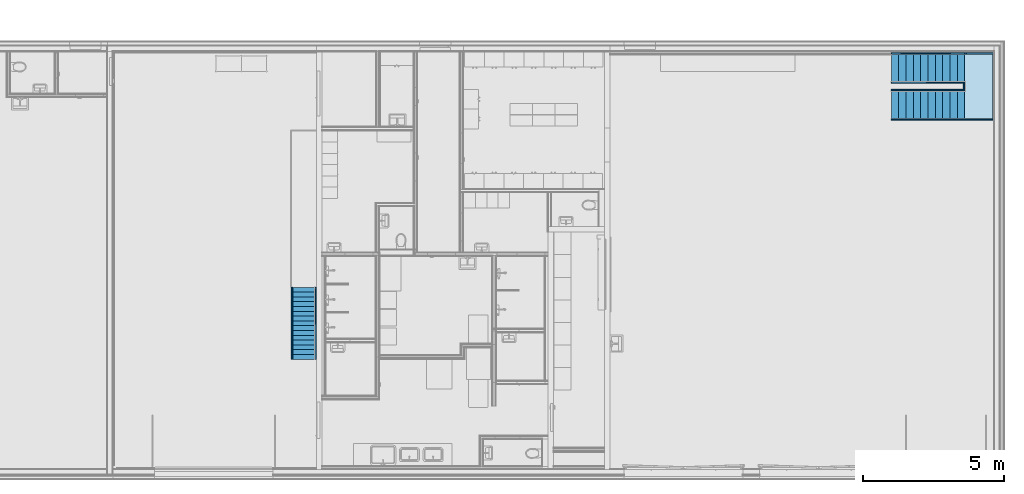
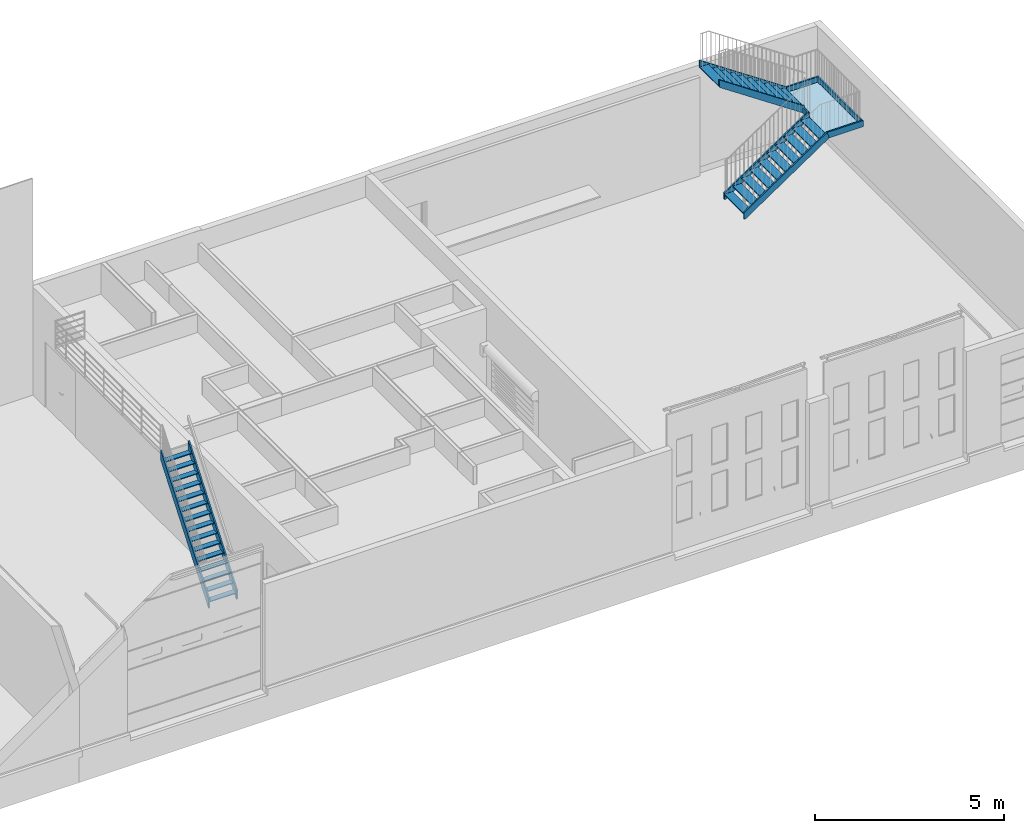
# One storey, part 1 of 67: 10 members, 3 stair flights, 1 slab, 2 elements without a shape of their own.
"""IFC4 building model written with IfcOpenShell, lengths in millimetres."""

from ifc_helpers import new_model, entity, si_unit, converted_unit, direction, frame, origin, place, context, subcontext, project, spatial, indexed_curve, outline, extrude, polygons, material, type_object, element, aggregate, save


model = new_model("IFC4")

# Units and contexts
model_context = context("Model", 3, precision=0.01, world=origin(), true_north=direction((0.0, 1.0)))
body_context = subcontext(model_context, "Body", "Model", "MODEL_VIEW")
ifc_project = project(units=[si_unit("LENGTHUNIT", "METRE", prefix="MILLI"), si_unit("AREAUNIT", "SQUARE_METRE"), si_unit("VOLUMEUNIT", "CUBIC_METRE"), converted_unit("PLANEANGLEUNIT", "DEGREE", entity("IfcPlaneAngleMeasure", 0.017453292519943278), si_unit("PLANEANGLEUNIT", "RADIAN"), dimensions=[0, 0, 0, 0, 0, 0, 0])], contexts=[model_context])

# Site, building, storey
site_placement = place(None, origin())
site = spatial("IfcSite", under=ifc_project, at=site_placement, Name="Tomtens navn", CompositionType="ELEMENT")
building_placement = place(site_placement, origin())
building = spatial("IfcBuilding", under=site, at=building_placement, Name="Byggets navn", CompositionType="ELEMENT")
storey_placement = place(building_placement, origin())
storey = spatial("IfcBuildingStorey", under=building, at=storey_placement, Name="Level 01", CompositionType="ELEMENT", Elevation=2.1993652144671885e-25)

# Stair, members
stair_type_1 = type_object("IfcStairType", Name="Assembled Stair:Ståltrapp A", PredefinedType="STRAIGHT_RUN_STAIR")
stair_1_placement = place(storey_placement, origin())
stair_1 = element("IfcStair", 1, at=stair_1_placement, inside=storey, type_object=stair_type_1, Name="Assembled Stair:Stair", PredefinedType="STRAIGHT_RUN_STAIR")
ifc_material = material(Name="Stål", Category="Metal")
member_type = type_object("IfcMemberType", Name="Stringer:Stringer - Metal - 45 mm Width", PredefinedType="STRINGER")
member_1_placement = place(stair_1_placement, origin())
member_1 = element("IfcMember", 2, at=member_1_placement, type_object=member_type, material=ifc_material, Name="Assembled Stair:Stair:1964990 Stringer 1", PredefinedType="STRINGER", context=body_context, shape_type="SweptSolid", body=[
    extrude(outline(indexed_curve([(-1024.662857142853, -1424.872105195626), (-1001.3485714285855, -1424.872105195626), (1525.337142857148, 1826.37789480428), (1525.337142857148, 2152.308157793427), (-1024.662857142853, -1128.9418422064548), (-1024.662857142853, -1424.872105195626)], self_intersect=False)), frame((58377.11707632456, 12986.129314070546, 1424.872105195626), z_axis=(1.0, 0.0, 0.0), x_axis=(0.0, 1.0, 0.0)), (0.0, 0.0, 1.0), 44.99999999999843),
])
member_2_placement = place(stair_1_placement, origin())
member_2 = element("IfcMember", 3, at=member_2_placement, type_object=member_type, material=ifc_material, Name="Assembled Stair:Stair:1964990 Stringer 2", PredefinedType="STRINGER", context=body_context, shape_type="SweptSolid", body=[
    extrude(outline(indexed_curve([(-1024.6628571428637, -1424.87210519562), (-1001.3485714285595, -1424.8721051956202), (1525.337142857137, 1826.37789480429), (1525.337142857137, 2152.308157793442), (-1024.6628571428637, -1128.941842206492), (-1024.6628571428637, -1424.87210519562)], self_intersect=False)), frame((57532.11707632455, 12986.12931407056, 1424.87210519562), z_axis=(1.0, 0.0, 0.0), x_axis=(0.0, 1.0, 0.0)), (0.0, 0.0, 1.0), 44.99999999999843),
])

# Stair, members, slab
stair_type_2 = type_object("IfcStairType", Name="Assembled Stair:Ståltrapp A", PredefinedType="HALF_TURN_STAIR")
stair_2_placement = place(storey_placement, origin())
stair_2 = element("IfcStair", 4, at=stair_2_placement, inside=storey, type_object=stair_type_2, Name="Assembled Stair:Stair", PredefinedType="HALF_TURN_STAIR")
member_3_placement = place(stair_2_placement, origin())
member_3 = element("IfcMember", 5, at=member_3_placement, type_object=member_type, material=ifc_material, Name="Assembled Stair:Stair:2088389 Stringer 1", PredefinedType="STRINGER", context=body_context, shape_type="SweptSolid", body=[
    extrude(outline(indexed_curve([(-1480.1334070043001, -97.34464691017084), (1580.3764873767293, -97.34464691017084), (1593.6818222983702, -88.38913302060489), (1465.09418741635, 102.65535308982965), (-1561.0215895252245, 102.65535308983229), (-1597.997500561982, 77.76772066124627), (-1480.1334070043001, -97.34464691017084)], self_intersect=False)), frame((80065.03459323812, 21473.9919636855, 956.7991896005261), z_axis=(0.0, 1.0, 0.0), x_axis=(0.8295877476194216, 0.0, 0.5583763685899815)), (0.0, 0.0, 1.0), 44.999999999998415),
])
member_4_placement = place(stair_2_placement, origin())
member_4 = element("IfcMember", 6, at=member_4_placement, type_object=member_type, material=ifc_material, Name="Assembled Stair:Stair:2088389 Stringer 2", PredefinedType="STRINGER", context=body_context, shape_type="SweptSolid", body=[
    extrude(outline(indexed_curve([(-1172.2458045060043, -115.02247351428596), (1888.2640898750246, -115.02247351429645), (1827.225599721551, 84.97752648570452), (-1253.1339870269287, 84.9775264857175), (-1290.109898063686, 60.08989405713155), (-1172.2458045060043, -115.02247351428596)], self_intersect=False)), frame((79819.48569118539, 20428.99196368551, 770.2167198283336), z_axis=(0.0, 1.0, 0.0), x_axis=(0.8295877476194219, 0.0, 0.5583763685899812)), (0.0, 0.0, 1.0), 44.99999999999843),
])
member_5_placement = place(stair_2_placement, origin())
member_5 = element("IfcMember", 7, at=member_5_placement, type_object=member_type, material=ifc_material, Name="Assembled Stair:Stair:2088389 Stringer 3", PredefinedType="STRINGER", context=body_context, shape_type="SweptSolid", body=[
    extrude(outline(indexed_curve([(-1634.3510867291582, -99.99999999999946), (1499.7357021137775, -99.99999999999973), (1634.351086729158, 99.99999999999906), (-1499.735702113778, 99.99999999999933), (-1634.3510867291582, -99.99999999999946)], self_intersect=False)), frame((80082.77910350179, 21728.991963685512, 2715.5417995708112), z_axis=(0.0, 1.0, 0.0), x_axis=(-0.8295877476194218, 0.0, 0.5583763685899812)), (0.0, 0.0, 1.0), 44.999999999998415),
])
member_6_placement = place(stair_2_placement, origin())
member_6 = element("IfcMember", 8, at=member_6_placement, type_object=member_type, material=ifc_material, Name="Assembled Stair:Stair:2088389 Stringer 4", PredefinedType="STRINGER", context=body_context, shape_type="SweptSolid", body=[
    extrude(outline(indexed_curve([(-1615.9568631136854, -99.99999999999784), (1518.1299257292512, -99.99999999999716), (1652.7453103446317, 100.00000000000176), (-1554.9183729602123, 100.00000000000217), (-1615.9568631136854, -99.99999999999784)], self_intersect=False)), frame((80098.03872604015, 22773.99196368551, 2705.2708997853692), z_axis=(0.0, 1.0, 0.0), x_axis=(-0.8295877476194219, 0.0, 0.5583763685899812)), (0.0, 0.0, 1.0), 44.9999999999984),
])
member_7_placement = place(stair_2_placement, origin())
member_7 = element("IfcMember", 9, at=member_7_placement, type_object=member_type, material=ifc_material, Name="Assembled Stair:Stair:2088389 Stringer 5", PredefinedType="STRINGER", context=body_context, shape_type="SweptSolid", body=[
    extrude(outline(indexed_curve([(-127.50000000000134, -22.50000000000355), (127.50000000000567, -22.50000000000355), (127.50000000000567, 22.50000000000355), (-127.50000000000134, 22.50000000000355), (-127.50000000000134, -22.50000000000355)], self_intersect=False)), frame((81360.27910350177, 21601.491963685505, 1720.0), z_axis=(0.0, 0.0, 1.0), x_axis=(0.0, -1.0, 0.0)), (0.0, 0.0, 1.0), 200.0),
])
member_8_placement = place(stair_2_placement, frame((81321.74061334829, 20428.991963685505, 1720.0)))
member_8 = element("IfcMember", 10, at=member_8_placement, type_object=member_type, material=ifc_material, Name="Assembled Stair:Stair:2088389 Stringer 6", PredefinedType="STRINGER", context=body_context, shape_type="Tessellation", body=[
    polygons([(0.0, 44.99999999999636, 200.00000000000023), (0.0, 0.0, 200.00000000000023), (1106.0384901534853, 0.0, 200.00000000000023), (1061.0384901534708, 44.99999999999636, 200.00000000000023), (61.03849015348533, 44.99999999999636, 2.2737367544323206e-13), (1061.0384901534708, 44.99999999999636, 2.2737367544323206e-13), (61.03849015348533, 0.0, 2.2737367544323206e-13), (1106.0384901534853, 0.0, 2.2737367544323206e-13)], [[[1, 2, 3, 4]], [[5, 1, 4, 6]], [[7, 5, 6, 8]], [[2, 7, 8, 3]], [[2, 1, 5, 7]], [[3, 8, 6, 4]]], closed=True),
])
member_9_placement = place(stair_2_placement, origin())
member_9 = element("IfcMember", 11, at=member_9_placement, type_object=member_type, material=ifc_material, Name="Assembled Stair:Stair:2088389 Stringer 7", PredefinedType="STRINGER", context=body_context, shape_type="SweptSolid", body=[
    extrude(outline(indexed_curve([(-1194.9999999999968, -22.50000000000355), (1195.0000000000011, -22.50000000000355), (1150.0000000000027, 22.50000000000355), (-1149.9999999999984, 22.50000000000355), (-1194.9999999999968, -22.50000000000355)], self_intersect=False)), frame((82405.27910350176, 21623.9919636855, 1720.0), z_axis=(0.0, 0.0, 1.0), x_axis=(0.0, 1.0, 0.0)), (0.0, 0.0, 1.0), 200.0),
])
member_10_placement = place(stair_2_placement, frame((81382.77910350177, 22773.991963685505, 1720.0)))
member_10 = element("IfcMember", 12, at=member_10_placement, type_object=member_type, material=ifc_material, Name="Assembled Stair:Stair:2088389 Stringer 8", PredefinedType="STRINGER", context=body_context, shape_type="Tessellation", body=[
    polygons([(999.9999999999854, 0.0, 200.00000000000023), (1045.0, 44.99999999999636, 200.00000000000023), (61.03849015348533, 44.99999999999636, 200.00000000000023), (61.03849015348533, 0.0, 200.00000000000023), (999.9999999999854, 0.0, 2.2737367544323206e-13), (0.0, 0.0, 2.2737367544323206e-13), (1045.0, 44.99999999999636, 2.2737367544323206e-13), (0.0, 44.99999999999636, 2.2737367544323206e-13)], [[[1, 2, 3, 4]], [[5, 1, 4, 6]], [[7, 5, 6, 8]], [[2, 7, 8, 3]], [[2, 1, 5, 7]], [[3, 8, 6, 4]]], closed=True),
])
slab_type = type_object("IfcSlabType", Name="Non-Monolithic Landing:Ikke monolittisk trappeavsats", PredefinedType="LANDING")
slab_placement = place(stair_2_placement, origin())
slab = element("IfcSlab", 13, at=slab_placement, type_object=slab_type, material=ifc_material, Name="Assembled Stair:Stair:2088389 Landing 1", PredefinedType="LANDING", context=body_context, shape_type="SweptSolid", body=[
    extrude(outline(indexed_curve([(150.00000000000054, -333.33333333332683), (1149.9999999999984, -333.33333333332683), (1149.9999999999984, 666.6666666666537), (-1150.0000000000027, 666.6666666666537), (-1150.0000000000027, -333.33333333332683), (-150.0000000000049, -333.33333333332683), (150.00000000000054, -333.33333333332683)], self_intersect=False)), frame((81716.1124368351, 21623.9919636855, 1720.0), z_axis=(0.0, 0.0, 1.0), x_axis=(0.0, -1.0, 0.0)), (0.0, 0.0, 1.0), 29.999999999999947),
])

# Stair flight
stair_flight_type = type_object("IfcStairFlightType", Name="Non-Monolithic Run:Stål Trinn 30mm", PredefinedType="STRAIGHT")
stair_flight_1_placement = place(stair_1_placement, origin())
stair_flight_1 = element("IfcStairFlight", 14, at=stair_flight_1_placement, type_object=stair_flight_type, material=ifc_material, Name="Assembled Stair:Stair:1964990 Run 1", PredefinedType="STRAIGHT", context=body_context, shape_type="SweptSolid", body=[
    extrude(outline(indexed_curve([(-85.00000000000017, -399.9999999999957), (84.99999999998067, -399.9999999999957), (85.00000000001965, 400.000000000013), (-85.00000000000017, 400.000000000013), (-85.00000000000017, -399.9999999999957)], self_intersect=False)), frame((57977.117076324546, 12046.466456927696, 188.74999999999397), z_axis=(0.0, 0.0, 1.0), x_axis=(0.0, -1.0, 0.0)), (0.0, 0.0, 1.0), 30.000000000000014),
    extrude(outline(indexed_curve([(-85.00000000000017, -399.9999999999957), (85.00000000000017, -399.9999999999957), (85.00000000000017, 400.000000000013), (-85.00000000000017, 400.000000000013), (-85.00000000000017, -399.9999999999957)], self_intersect=False)), frame((57977.117076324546, 12216.466456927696, 407.4999999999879), z_axis=(0.0, 0.0, 1.0), x_axis=(0.0, -1.0, 0.0)), (0.0, 0.0, 1.0), 30.000000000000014),
    extrude(outline(indexed_curve([(-85.00000000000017, -399.9999999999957), (85.00000000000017, -399.9999999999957), (85.00000000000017, 400.000000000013), (-85.00000000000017, 400.000000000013), (-85.00000000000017, -399.9999999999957)], self_intersect=False)), frame((57977.117076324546, 12386.466456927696, 626.2499999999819), z_axis=(0.0, 0.0, 1.0), x_axis=(0.0, -1.0, 0.0)), (0.0, 0.0, 1.0), 29.999999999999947),
    extrude(outline(indexed_curve([(-85.00000000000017, -399.9999999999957), (85.00000000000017, -399.9999999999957), (85.00000000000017, 400.000000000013), (-85.00000000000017, 400.000000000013), (-85.00000000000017, -399.9999999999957)], self_intersect=False)), frame((57977.117076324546, 12556.466456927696, 845.0), z_axis=(0.0, 0.0, 1.0), x_axis=(0.0, -1.0, 0.0)), (0.0, 0.0, 1.0), 29.999999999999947),
    extrude(outline(indexed_curve([(-85.00000000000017, -399.9999999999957), (85.00000000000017, -399.9999999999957), (85.00000000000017, 400.000000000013), (-85.00000000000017, 400.000000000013), (-85.00000000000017, -399.9999999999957)], self_intersect=False)), frame((57977.117076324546, 12726.466456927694, 1063.7499999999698), z_axis=(0.0, 0.0, 1.0), x_axis=(0.0, -1.0, 0.0)), (0.0, 0.0, 1.0), 29.999999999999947),
    extrude(outline(indexed_curve([(-85.00000000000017, -399.9999999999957), (85.00000000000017, -399.9999999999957), (85.00000000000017, 400.000000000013), (-85.00000000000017, 400.000000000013), (-85.00000000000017, -399.9999999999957)], self_intersect=False)), frame((57977.117076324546, 12896.466456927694, 1282.4999999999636), z_axis=(0.0, 0.0, 1.0), x_axis=(0.0, -1.0, 0.0)), (0.0, 0.0, 1.0), 29.999999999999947),
    extrude(outline(indexed_curve([(-84.999999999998, -399.9999999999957), (85.00000000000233, -399.9999999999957), (85.00000000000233, 400.000000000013), (-84.999999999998, 400.000000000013), (-84.999999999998, -399.9999999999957)], self_intersect=False)), frame((57977.117076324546, 13066.466456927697, 1501.249999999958), z_axis=(0.0, 0.0, 1.0), x_axis=(0.0, -1.0, 0.0)), (0.0, 0.0, 1.0), 29.999999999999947),
    extrude(outline(indexed_curve([(-85.00000000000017, -399.9999999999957), (85.00000000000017, -399.9999999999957), (85.00000000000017, 400.000000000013), (-85.00000000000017, 400.000000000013), (-85.00000000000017, -399.9999999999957)], self_intersect=False)), frame((57977.117076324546, 13236.466456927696, 1720.0), z_axis=(0.0, 0.0, 1.0), x_axis=(0.0, -1.0, 0.0)), (0.0, 0.0, 1.0), 29.999999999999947),
    extrude(outline(indexed_curve([(-85.00000000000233, -399.9999999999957), (84.999999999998, -399.9999999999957), (84.999999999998, 400.000000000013), (-85.00000000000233, 400.000000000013), (-85.00000000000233, -399.9999999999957)], self_intersect=False)), frame((57977.117076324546, 13406.466456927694, 1938.7499999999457), z_axis=(0.0, 0.0, 1.0), x_axis=(0.0, -1.0, 0.0)), (0.0, 0.0, 1.0), 29.999999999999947),
    extrude(outline(indexed_curve([(-85.00000000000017, -399.9999999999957), (85.00000000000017, -399.9999999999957), (85.00000000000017, 400.000000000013), (-85.00000000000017, 400.000000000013), (-85.00000000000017, -399.9999999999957)], self_intersect=False)), frame((57977.117076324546, 13576.466456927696, 2157.4999999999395), z_axis=(0.0, 0.0, 1.0), x_axis=(0.0, -1.0, 0.0)), (0.0, 0.0, 1.0), 29.999999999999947),
    extrude(outline(indexed_curve([(-84.999999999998, -399.9999999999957), (85.00000000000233, -399.9999999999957), (85.00000000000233, 400.000000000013), (-84.999999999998, 400.000000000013), (-84.999999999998, -399.9999999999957)], self_intersect=False)), frame((57977.117076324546, 13746.466456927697, 2376.2499999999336), z_axis=(0.0, 0.0, 1.0), x_axis=(0.0, -1.0, 0.0)), (0.0, 0.0, 1.0), 29.999999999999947),
    extrude(outline(indexed_curve([(-85.00000000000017, -399.9999999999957), (85.00000000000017, -399.9999999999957), (85.00000000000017, 400.000000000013), (-85.00000000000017, 400.000000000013), (-85.00000000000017, -399.9999999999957)], self_intersect=False)), frame((57977.117076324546, 13916.466456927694, 2595.0), z_axis=(0.0, 0.0, 1.0), x_axis=(0.0, -1.0, 0.0)), (0.0, 0.0, 1.0), 30.00000000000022),
    extrude(outline(indexed_curve([(-85.00000000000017, -399.9999999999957), (85.00000000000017, -399.9999999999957), (85.00000000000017, 400.000000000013), (-85.00000000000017, 400.000000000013), (-85.00000000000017, -399.9999999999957)], self_intersect=False)), frame((57977.117076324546, 14086.466456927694, 2813.7499999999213), z_axis=(0.0, 0.0, 1.0), x_axis=(0.0, -1.0, 0.0)), (0.0, 0.0, 1.0), 30.00000000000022),
    extrude(outline(indexed_curve([(-85.00000000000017, -399.9999999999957), (85.00000000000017, -399.9999999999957), (85.00000000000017, 400.000000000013), (-85.00000000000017, 400.000000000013), (-85.00000000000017, -399.9999999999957)], self_intersect=False)), frame((57977.117076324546, 14256.466456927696, 3032.4999999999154), z_axis=(0.0, 0.0, 1.0), x_axis=(0.0, -1.0, 0.0)), (0.0, 0.0, 1.0), 30.00000000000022),
    extrude(outline(indexed_curve([(-85.00000000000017, -399.9999999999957), (85.00000000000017, -399.9999999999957), (85.00000000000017, 400.000000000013), (-85.00000000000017, 400.000000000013), (-85.00000000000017, -399.9999999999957)], self_intersect=False)), frame((57977.117076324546, 14426.466456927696, 3251.249999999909), z_axis=(0.0, 0.0, 1.0), x_axis=(0.0, -1.0, 0.0)), (0.0, 0.0, 1.0), 30.00000000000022),
])

aggregate(stair_1, [stair_flight_1, member_1, member_2])

stair_flight_2_placement = place(stair_2_placement, origin())
stair_flight_2 = element("IfcStairFlight", 15, at=stair_flight_2_placement, type_object=stair_flight_type, material=ifc_material, Name="Assembled Stair:Stair:2088389 Run 1", PredefinedType="STRAIGHT", context=body_context, shape_type="SweptSolid", body=[
    extrude(outline(indexed_curve([(-130.0000000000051, -499.999999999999), (129.99999999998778, -499.999999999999), (129.99999999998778, 499.999999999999), (-130.0000000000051, 499.999999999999), (-130.0000000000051, -499.999999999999)], self_intersect=False)), frame((78912.77910350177, 20973.991963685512, 145.0), z_axis=(0.0, 0.0, 1.0), x_axis=(-1.0, 0.0, 0.0)), (0.0, 0.0, 1.0), 30.0),
    extrude(outline(indexed_curve([(-130.0000000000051, -499.999999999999), (130.0000000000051, -499.999999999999), (130.0000000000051, 499.999999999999), (-130.0000000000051, 499.999999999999), (-130.0000000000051, -499.999999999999)], self_intersect=False)), frame((79172.77910350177, 20973.991963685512, 320.0), z_axis=(0.0, 0.0, 1.0), x_axis=(-1.0, 0.0, 0.0)), (0.0, 0.0, 1.0), 30.000000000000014),
    extrude(outline(indexed_curve([(-130.0000000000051, -499.999999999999), (130.0000000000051, -499.999999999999), (130.0000000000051, 499.999999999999), (-130.0000000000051, 499.999999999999), (-130.0000000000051, -499.999999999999)], self_intersect=False)), frame((79432.77910350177, 20973.991963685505, 495.0), z_axis=(0.0, 0.0, 1.0), x_axis=(-1.0, 0.0, 0.0)), (0.0, 0.0, 1.0), 30.000000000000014),
    extrude(outline(indexed_curve([(-130.0000000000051, -499.999999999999), (130.0000000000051, -499.999999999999), (130.0000000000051, 499.999999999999), (-130.0000000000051, 499.999999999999), (-130.0000000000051, -499.999999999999)], self_intersect=False)), frame((79692.77910350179, 20973.991963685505, 670.0), z_axis=(0.0, 0.0, 1.0), x_axis=(-1.0, 0.0, 0.0)), (0.0, 0.0, 1.0), 30.00000000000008),
    extrude(outline(indexed_curve([(-130.0000000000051, -499.999999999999), (130.0000000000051, -499.999999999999), (130.0000000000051, 499.999999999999), (-130.0000000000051, 499.999999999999), (-130.0000000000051, -499.999999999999)], self_intersect=False)), frame((79952.77910350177, 20973.991963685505, 845.0), z_axis=(0.0, 0.0, 1.0), x_axis=(-1.0, 0.0, 0.0)), (0.0, 0.0, 1.0), 30.00000000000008),
    extrude(outline(indexed_curve([(-130.0000000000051, -499.999999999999), (130.0000000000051, -499.999999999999), (130.0000000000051, 499.999999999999), (-130.0000000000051, 499.999999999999), (-130.0000000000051, -499.999999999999)], self_intersect=False)), frame((80212.77910350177, 20973.991963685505, 1020.0), z_axis=(0.0, 0.0, 1.0), x_axis=(-1.0, 0.0, 0.0)), (0.0, 0.0, 1.0), 30.00000000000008),
    extrude(outline(indexed_curve([(-130.0000000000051, -499.999999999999), (130.0000000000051, -499.999999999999), (130.0000000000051, 499.999999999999), (-130.0000000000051, 499.999999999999), (-130.0000000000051, -499.999999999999)], self_intersect=False)), frame((80472.77910350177, 20973.991963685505, 1195.0), z_axis=(0.0, 0.0, 1.0), x_axis=(-1.0, 0.0, 0.0)), (0.0, 0.0, 1.0), 29.999999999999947),
    extrude(outline(indexed_curve([(-130.0000000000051, -499.999999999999), (130.0000000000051, -499.999999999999), (130.0000000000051, 499.999999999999), (-130.0000000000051, 499.999999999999), (-130.0000000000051, -499.999999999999)], self_intersect=False)), frame((80732.77910350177, 20973.9919636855, 1370.0), z_axis=(0.0, 0.0, 1.0), x_axis=(-1.0, 0.0, 0.0)), (0.0, 0.0, 1.0), 29.999999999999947),
    extrude(outline(indexed_curve([(-130.0000000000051, -499.999999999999), (130.0000000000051, -499.999999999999), (130.0000000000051, 499.999999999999), (-130.0000000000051, 499.999999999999), (-130.0000000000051, -499.999999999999)], self_intersect=False)), frame((80992.77910350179, 20973.9919636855, 1545.0), z_axis=(0.0, 0.0, 1.0), x_axis=(-1.0, 0.0, 0.0)), (0.0, 0.0, 1.0), 29.999999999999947),
    extrude(outline(indexed_curve([(-130.0000000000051, -499.999999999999), (130.0000000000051, -499.999999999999), (130.0000000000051, 499.999999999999), (-130.0000000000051, 499.999999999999), (-130.0000000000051, -499.999999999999)], self_intersect=False)), frame((81252.77910350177, 20973.9919636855, 1720.0), z_axis=(0.0, 0.0, 1.0), x_axis=(-1.0, 0.0, 0.0)), (0.0, 0.0, 1.0), 29.999999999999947),
])

stair_flight_3_placement = place(stair_2_placement, origin())
stair_flight_3 = element("IfcStairFlight", 16, at=stair_flight_3_placement, type_object=stair_flight_type, material=ifc_material, Name="Assembled Stair:Stair:2088389 Run 2", PredefinedType="STRAIGHT", context=body_context, shape_type="SweptSolid", body=[
    extrude(outline(indexed_curve([(-130.0000000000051, -499.999999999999), (129.99999999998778, -499.999999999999), (129.99999999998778, 499.999999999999), (-130.0000000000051, 499.999999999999), (-130.0000000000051, -499.999999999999)], self_intersect=False)), frame((81252.77910350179, 22273.991963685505, 1895.0)), (0.0, 0.0, 1.0), 29.999999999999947),
    extrude(outline(indexed_curve([(-130.0000000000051, -499.999999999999), (130.0000000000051, -499.999999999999), (130.0000000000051, 499.999999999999), (-130.0000000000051, 499.999999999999), (-130.0000000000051, -499.999999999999)], self_intersect=False)), frame((80992.77910350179, 22273.991963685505, 2070.0)), (0.0, 0.0, 1.0), 29.999999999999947),
    extrude(outline(indexed_curve([(-130.0000000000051, -499.999999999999), (130.0000000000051, -499.999999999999), (130.0000000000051, 499.999999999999), (-130.0000000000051, 499.999999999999), (-130.0000000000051, -499.999999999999)], self_intersect=False)), frame((80732.77910350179, 22273.99196368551, 2245.0)), (0.0, 0.0, 1.0), 29.999999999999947),
    extrude(outline(indexed_curve([(-130.0000000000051, -499.999999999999), (130.0000000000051, -499.999999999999), (130.0000000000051, 499.999999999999), (-130.0000000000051, 499.999999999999), (-130.0000000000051, -499.999999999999)], self_intersect=False)), frame((80472.77910350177, 22273.99196368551, 2420.0)), (0.0, 0.0, 1.0), 29.999999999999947),
    extrude(outline(indexed_curve([(-130.0000000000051, -499.999999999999), (130.0000000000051, -499.999999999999), (130.0000000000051, 499.999999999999), (-130.0000000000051, 499.999999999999), (-130.0000000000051, -499.999999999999)], self_intersect=False)), frame((80212.77910350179, 22273.99196368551, 2595.0)), (0.0, 0.0, 1.0), 30.00000000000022),
    extrude(outline(indexed_curve([(-130.0000000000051, -499.999999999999), (130.0000000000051, -499.999999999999), (130.0000000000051, 499.999999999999), (-130.0000000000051, 499.999999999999), (-130.0000000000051, -499.999999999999)], self_intersect=False)), frame((79952.77910350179, 22273.99196368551, 2770.0)), (0.0, 0.0, 1.0), 30.00000000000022),
    extrude(outline(indexed_curve([(-130.0000000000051, -499.999999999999), (130.0000000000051, -499.999999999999), (130.0000000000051, 499.999999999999), (-130.0000000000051, 499.999999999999), (-130.0000000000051, -499.999999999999)], self_intersect=False)), frame((79692.77910350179, 22273.99196368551, 2945.0)), (0.0, 0.0, 1.0), 30.00000000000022),
    extrude(outline(indexed_curve([(-130.0000000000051, -499.999999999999), (130.0000000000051, -499.999999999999), (130.0000000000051, 499.999999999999), (-130.0000000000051, 499.999999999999), (-130.0000000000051, -499.999999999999)], self_intersect=False)), frame((79432.77910350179, 22273.991963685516, 3120.0)), (0.0, 0.0, 1.0), 30.00000000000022),
    extrude(outline(indexed_curve([(-130.0000000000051, -499.999999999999), (130.0000000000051, -499.999999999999), (130.0000000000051, 499.999999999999), (-130.0000000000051, 499.999999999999), (-130.0000000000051, -499.999999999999)], self_intersect=False)), frame((79172.77910350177, 22273.991963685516, 3295.0)), (0.0, 0.0, 1.0), 30.00000000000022),
    extrude(outline(indexed_curve([(-130.0000000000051, -499.999999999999), (130.0000000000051, -499.999999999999), (130.0000000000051, 499.999999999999), (-130.0000000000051, 499.999999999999), (-130.0000000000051, -499.999999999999)], self_intersect=False)), frame((78912.77910350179, 22273.991963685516, 3470.0)), (0.0, 0.0, 1.0), 30.00000000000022),
])

aggregate(stair_2, [stair_flight_2, stair_flight_3, slab, member_3, member_4, member_5, member_6, member_7, member_8, member_9, member_10])

save(model, "model.ifc")
